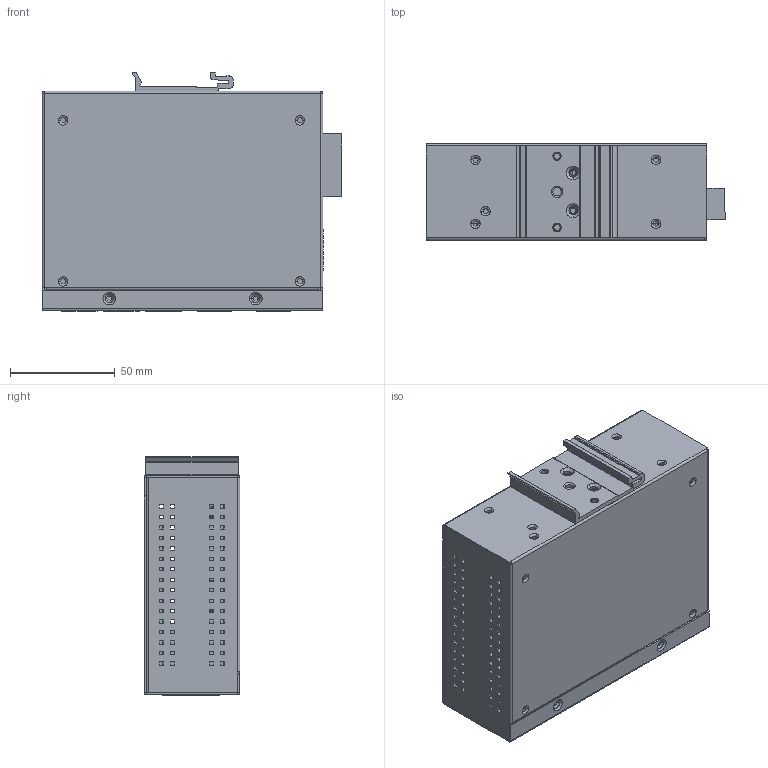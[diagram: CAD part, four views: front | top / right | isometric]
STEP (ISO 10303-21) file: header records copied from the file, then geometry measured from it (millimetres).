
FILE_DESCRIPTION((''),'2;1');
FILE_NAME('3D_EDS-P308','2016-08-23T',('Vincent_Huang'),('PTC'),'PRO/ENGINEER BY PARAMETRIC TECHNOLOGY CORPORATION, 2013050','PRO/ENGINEER BY PARAMETRIC TECHNOLOGY CORPORATION, 2013050','');
FILE_SCHEMA(('CONFIG_CONTROL_DESIGN'));
Products named in the file (1): 3D_EDS-P308
Bounding box: 143.05 x 45.8 x 114 mm (x, y, z)
Volume: 126229.8 mm3; surface area: 165088.1 mm2
Topology: 2 solids, 16 shells, 1984 faces, 4926 edges, 3169 vertices
Faces by surface type: plane 1275, cylinder 577, cone 60, torus 44, bspline 28
Entity records: 69716 total; most frequent: CARTESIAN_POINT 10728, DIRECTION 10208, ORIENTED_EDGE 9804, EDGE_CURVE 4916, VECTOR 3458, LINE 3458, AXIS2_PLACEMENT_3D 3375, VERTEX_POINT 3169
